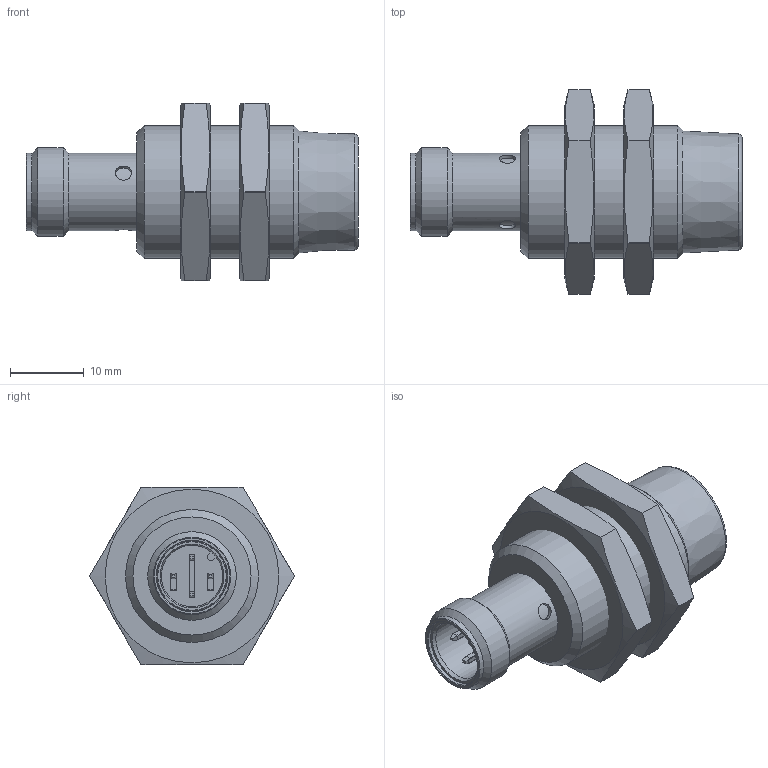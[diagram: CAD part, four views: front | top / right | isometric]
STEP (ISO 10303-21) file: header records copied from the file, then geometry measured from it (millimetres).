
FILE_DESCRIPTION( ( 'Unknown' ), '1' );
FILE_NAME( 'X:/SolidEdge/Models/Dokumentationen/Induktiv/IR18/vereinfachte Modelle/Neutralformate/IR18.xxxx-N45.xxxx.7BO.stp', 'Unknown', ( 'Unknown' ), ( 'Unknown' ), 'PSStep 15.0.49', 'Unknown', ' ' );
FILE_SCHEMA( ( 'AUTOMOTIVE_DESIGN { 1 0 10303 214 1 1 1 1 }' ) );
Length unit declared in the file: millimetre
Products named in the file (3): Assem1; IR18.xxxx-N45.xxxx.7BO_oA; 101474
Assembly tree (3 placements, depth 2):
  Assem1
    IR18.xxxx-N45.xxxx.7BO_oA
    101474  x2
Bounding box: 44.95 x 27.71 x 24 mm (x, y, z)
Volume: 10178.9 mm3; surface area: 5114 mm2
Topology: 3 solids, 3 shells, 139 faces, 369 edges, 245 vertices
Faces by surface type: plane 80, cylinder 45, cone 13, torus 1
Full cylindrical faces by diameter (mm): 2.2 x3, 9.45 x1, 10.45 x2, 12 x1, 16.917 x2, 18 x1
Entity records: 4856 total; most frequent: CARTESIAN_POINT 913, DIRECTION 606, ORIENTED_EDGE 576, EDGE_CURVE 288, AXIS2_PLACEMENT_3D 210, VERTEX_POINT 201, LINE 186, VECTOR 186
